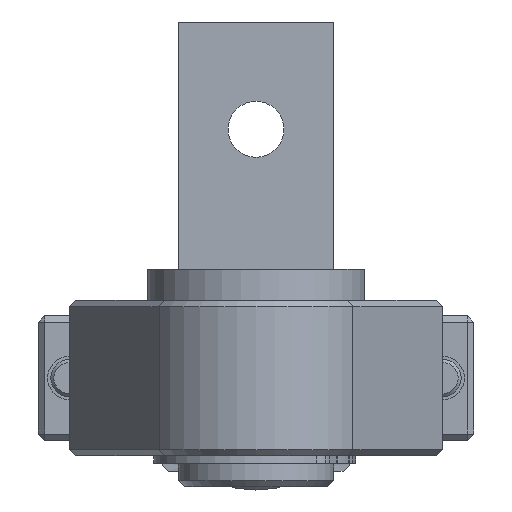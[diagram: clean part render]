
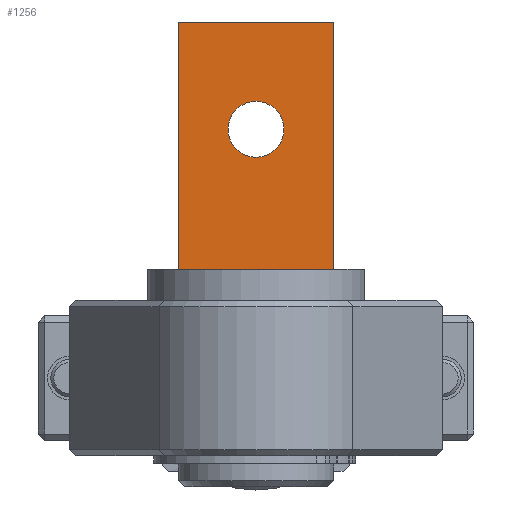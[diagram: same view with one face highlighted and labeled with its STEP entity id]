
A CAD part, left-side view. The second image highlights one B-rep face of the part: STEP entity #1256.
In plain terms, the highlighted planar face has unit normal (-1, 0, 0) as drawn and (0, 1, 0) by its records, which use the part's own axes.
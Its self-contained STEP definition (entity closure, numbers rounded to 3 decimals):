
#1256 = ADVANCED_FACE( '', ( #2461, #2462 ), #2463, .F. );
#2461 = FACE_BOUND( '', #3827, .T. );
#2462 = FACE_OUTER_BOUND( '', #3828, .T. );
#2463 = PLANE( '', #3829 );
#3827 = EDGE_LOOP( '', ( #5833 ) );
#3828 = EDGE_LOOP( '', ( #5834, #5835, #5836, #5837 ) );
#3829 = AXIS2_PLACEMENT_3D( '', #5838, #5839, #5840 );
#5833 = ORIENTED_EDGE( '', *, *, #7871, .T. );
#5834 = ORIENTED_EDGE( '', *, *, #7638, .T. );
#5835 = ORIENTED_EDGE( '', *, *, #8032, .F. );
#5836 = ORIENTED_EDGE( '', *, *, #7709, .F. );
#5837 = ORIENTED_EDGE( '', *, *, #8021, .T. );
#5838 = CARTESIAN_POINT( '', ( -7.388, 42.961, 25. ) );
#5839 = DIRECTION( '', ( 0., -1., 0. ) );
#5840 = DIRECTION( '', ( 1., 0., 0. ) );
#7638 = EDGE_CURVE( '', #8861, #8867, #8869, .T. );
#7709 = EDGE_CURVE( '', #8981, #8983, #8984, .T. );
#7871 = EDGE_CURVE( '', #9235, #9235, #9236, .T. );
#8021 = EDGE_CURVE( '', #8981, #8861, #9434, .T. );
#8032 = EDGE_CURVE( '', #8983, #8867, #9448, .T. );
#8861 = VERTEX_POINT( '', #10741 );
#8867 = VERTEX_POINT( '', #10750 );
#8869 = LINE( '', #10753, #10754 );
#8981 = VERTEX_POINT( '', #10912 );
#8983 = VERTEX_POINT( '', #10915 );
#8984 = LINE( '', #10916, #10917 );
#9235 = VERTEX_POINT( '', #11253 );
#9236 = CIRCLE( '', #11254, 4.5 );
#9434 = LINE( '', #11608, #11609 );
#9448 = LINE( '', #11626, #11627 );
#10741 = CARTESIAN_POINT( '', ( -7.388, 42.961, 0. ) );
#10750 = CARTESIAN_POINT( '', ( -47.138, 42.961, 0. ) );
#10753 = CARTESIAN_POINT( '', ( -7.388, 42.961, 0. ) );
#10754 = VECTOR( '', #13013, 1000. );
#10912 = CARTESIAN_POINT( '', ( -7.388, 42.961, 25. ) );
#10915 = CARTESIAN_POINT( '', ( -47.138, 42.961, 25. ) );
#10916 = CARTESIAN_POINT( '', ( -7.388, 42.961, 25. ) );
#10917 = VECTOR( '', #13088, 1000. );
#11253 = CARTESIAN_POINT( '', ( -20.138, 42.961, 12.5 ) );
#11254 = AXIS2_PLACEMENT_3D( '', #13276, #13277, #13278 );
#11608 = CARTESIAN_POINT( '', ( -7.388, 42.961, 25. ) );
#11609 = VECTOR( '', #13448, 1000. );
#11626 = CARTESIAN_POINT( '', ( -47.138, 42.961, 25. ) );
#11627 = VECTOR( '', #13458, 1000. );
#13013 = DIRECTION( '', ( -1., 0., 0. ) );
#13088 = DIRECTION( '', ( -1., 0., 0. ) );
#13276 = CARTESIAN_POINT( '', ( -24.638, 42.961, 12.5 ) );
#13277 = DIRECTION( '', ( 0., -1., 0. ) );
#13278 = DIRECTION( '', ( 1., 0., 0. ) );
#13448 = DIRECTION( '', ( 0., 0., -1. ) );
#13458 = DIRECTION( '', ( 0., 0., -1. ) );
